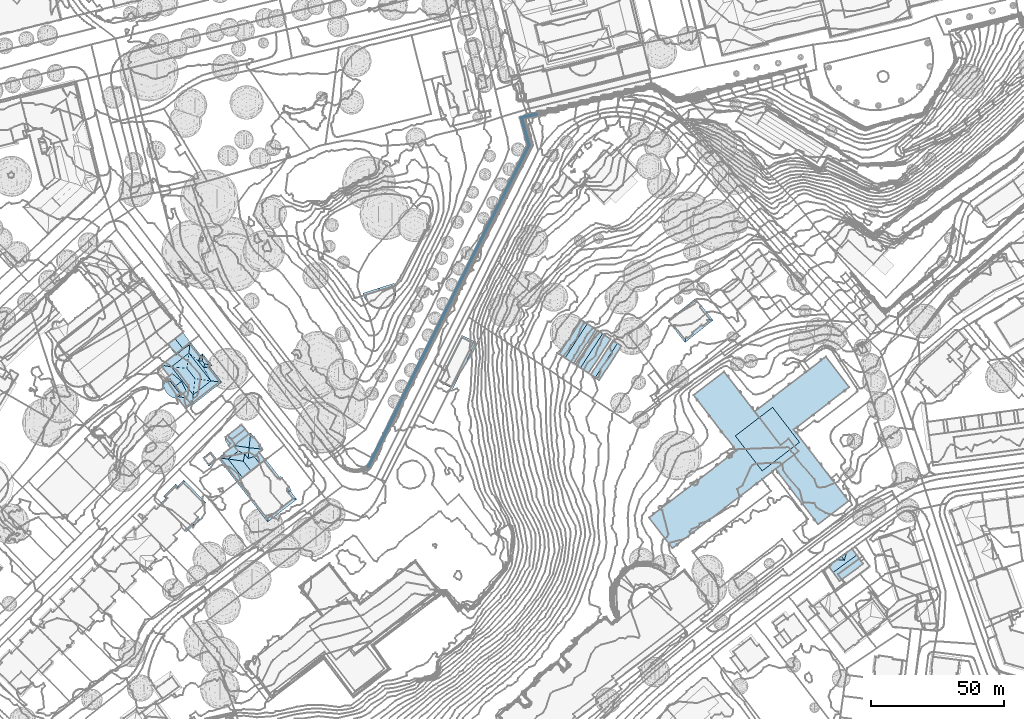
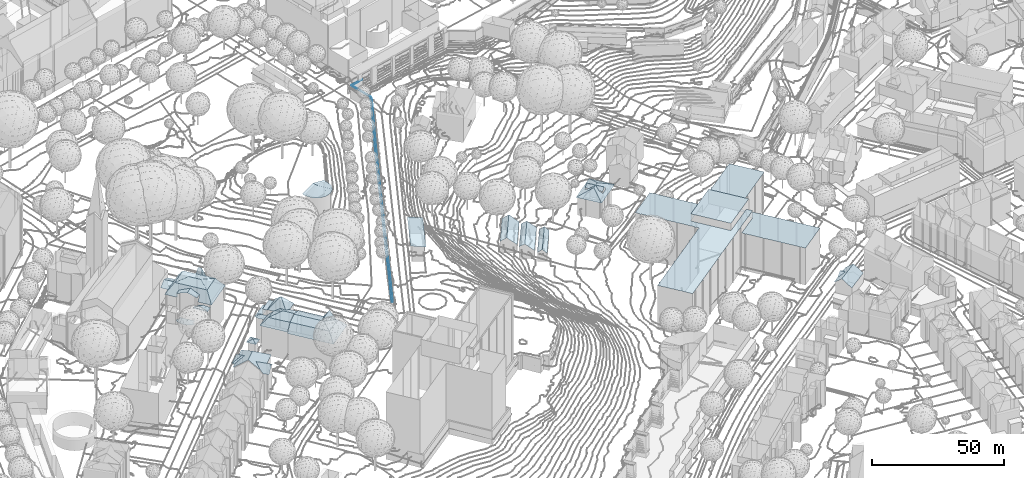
# Not in any storey, part 70 of 494: 21 roofs.
"""IFC2X3 model written with IfcOpenShell, lengths in metres."""

from ifc_helpers import new_model, si_unit, frame, origin_with_axes, place, context, subcontext, project, faceted_brep, element, save


model = new_model("IFC2X3")

# Units and contexts
model_context = context("Model", 3, precision=1e-05, world=origin_with_axes())
body_context = subcontext(model_context, "Body", "Model", "MODEL_VIEW")
ifc_project = project(units=[si_unit("AREAUNIT", "SQUARE_METRE"), si_unit("LENGTHUNIT", "METRE")], contexts=[model_context])

# Roofs
roof_1_placement = place(None, frame((211.8297320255, 101.9383160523, 526.7541), z_axis=(0.0, 0.0, 1.0), x_axis=(1.0, 0.0, 0.0)))
element("IfcRoof", 1, at=roof_1_placement, Name="Roof 61", ShapeType="NOTDEFINED", context=body_context, shape_type="Brep", body=[
    faceted_brep([(102.1030000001, 200.1112999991, 12.725), (98.7160000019, 210.6893999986, 12.908), (101.5769999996, 200.1640000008, 12.725), (99.1889999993, 194.3115000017, 12.725), (98.7479999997, 194.5351000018, 12.725), (86.574000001, 170.8154000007, 12.7249), (87.0150000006, 170.5927000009, 12.7249), (99.3280000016, 210.3222000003, 12.908), (104.8100000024, 211.5791000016, 12.908), (104.682, 212.057599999, 12.908), (69.7410000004, 135.8436999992, 12.3579), (79.3300000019, 155.1757000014, 12.45), (69.2980000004, 136.0634999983, 12.3579), (78.8869000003, 155.3955000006, 12.45), (59.6380000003, 116.7041000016, 12.2659), (60.0820000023, 116.4853000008, 12.2659), (50.5109999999, 96.9081999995, 11.991), (50.068, 97.128899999, 11.991), (41.626000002, 79.3007999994, 11.9909), (41.1750000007, 79.504900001, 11.9909)], [[[0, 1, 2]], [[3, 0, 4]], [[4, 0, 2]], [[4, 5, 6]], [[4, 6, 3]], [[1, 0, 7]], [[8, 9, 7]], [[1, 7, 9]], [[10, 11, 12]], [[12, 11, 13]], [[14, 15, 10]], [[14, 10, 12]], [[6, 5, 13]], [[13, 11, 6]], [[16, 17, 18]], [[19, 18, 17]], [[17, 16, 15]], [[15, 14, 17]]]),
])
roof_2_placement = place(None, frame((191.7677320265, 184.7195160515, 533.4186), z_axis=(0.0, 0.0, 1.0), x_axis=(1.0, 0.0, 0.0)))
element("IfcRoof", 2, at=roof_2_placement, Name="Roof 0", ShapeType="NOTDEFINED", context=body_context, shape_type="Brep", body=[
    faceted_brep([(4.9010000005, -0.5975999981, 6.3234), (2.3889999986, 1.7871000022, 6.5494), (2.1559999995, -0.2733999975, 7.1693), (2.4739999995, 2.5362000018, 6.3234), (1.8900000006, -2.2802000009, 6.5484), (1.7939999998, -3.0047999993, 6.3234), (0.0410000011, 0.0322999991, 6.5284), (-0.6339999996, 0.1289000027, 6.3234)], [[[0, 1, 2]], [[1, 0, 3]], [[4, 5, 0]], [[0, 2, 4]], [[1, 3, 6]], [[6, 2, 1]], [[7, 6, 3]], [[6, 7, 5]], [[6, 4, 2]], [[4, 6, 5]]]),
])
roof_3_placement = place(None, frame((204.5047320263, 176.2020160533, 532.0837), z_axis=(0.0, 0.0, 1.0), x_axis=(1.0, 0.0, 0.0)))
element("IfcRoof", 3, at=roof_3_placement, Name="Roof 0", ShapeType="NOTDEFINED", context=body_context, shape_type="Brep", body=[
    faceted_brep([(11.7740000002, -5.2979000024, 17.3633), (4.618999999, -2.6182000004, 16.2505), (6.443, -4.9726999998, 16.2564), (4.7919999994, 3.7127999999, 17.3634), (0.7840000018, -1.0030000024, 13.7007), (-0.563000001, -0.4365999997, 12.8058), (1.2659999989, -1.6202000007, 13.7067), (1.7730000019, -2.2696000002, 13.7137), (8.3430000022, -7.4229000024, 16.2654), (11.0329999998, -15.4013999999, 12.8058), (10.2710000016, -13.1425999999, 13.7857), (2.7219999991, -0.1680000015, 16.2415), (0.0, 0.0, 13.6807), (1.6440000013, 1.2733999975, 16.2365), (8.182, 6.3398000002, 16.3205), (14.6059999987, -1.9483000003, 16.3204), (11.7120000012, 4.9081999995, 13.9097), (10.387000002, 8.0487999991, 12.8058), (15.3680000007, 1.0243999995, 13.2647), (15.4829999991, 1.4715999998, 12.8058), (10.5859999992, 7.7918999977, 12.8058), (17.7809999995, -0.6436000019, 17.3633), (15.686999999, -3.3535999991, 16.3204), (19.0969999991, -2.3428000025, 14.7176), (18.7879999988, -3.5078999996, 13.8217), (20.0480000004, -3.5713, 12.8058), (11.1900000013, -14.0870000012, 13.9737), (21.9820000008, -6.9160999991, 12.8058), (11.5040000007, -11.4483000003, 16.3204), (20.6209999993, -6.7325000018, 14.0196), (18.0410000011, -6.3828999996, 16.3204), (19.637000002, -3.8887000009, 12.8058), (19.1220000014, -4.6933999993, 13.9397), (18.4979999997, -3.7344000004, 13.8187), (12.3020000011, -5.9785999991, 17.3633), (15.8940000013, 1.7899999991, 13.0208), (16.4570000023, 1.0634000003, 14.3166)], [[[0, 1, 2]], [[0, 3, 1]], [[4, 5, 6]], [[2, 1, 4]], [[2, 4, 6]], [[6, 5, 7]], [[8, 2, 6]], [[8, 6, 7]], [[7, 5, 9]], [[10, 8, 7]], [[9, 10, 7]], [[4, 1, 11]], [[4, 11, 5]], [[12, 5, 11]], [[11, 13, 12]], [[1, 3, 11]], [[3, 13, 11]], [[14, 3, 15]], [[0, 15, 3]], [[16, 17, 14]], [[15, 16, 14]], [[18, 19, 16]], [[15, 18, 16]], [[17, 16, 20]], [[20, 16, 19]], [[0, 21, 15]], [[21, 0, 22]], [[21, 22, 23]], [[23, 24, 25]], [[24, 23, 22]], [[26, 9, 27]], [[28, 26, 29]], [[29, 30, 28]], [[27, 29, 26]], [[29, 27, 31]], [[29, 32, 30]], [[32, 29, 31]], [[33, 22, 32]], [[32, 31, 33]], [[30, 32, 22]], [[31, 25, 33]], [[24, 22, 33]], [[24, 33, 25]], [[0, 34, 30]], [[30, 22, 0]], [[28, 30, 34]], [[0, 2, 8]], [[8, 34, 0]], [[28, 34, 8]], [[28, 8, 26]], [[10, 9, 26]], [[10, 26, 8]], [[18, 15, 35]], [[18, 35, 19]], [[15, 21, 36]], [[15, 36, 35]]]),
])
roof_4_placement = place(None, frame((197.8567320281, 184.744916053, 532.0838), z_axis=(0.0, 0.0, 1.0), x_axis=(1.0, 0.0, 0.0)))
element("IfcRoof", 4, at=roof_4_placement, Name="Roof 0", ShapeType="NOTDEFINED", context=body_context, shape_type="Brep", body=[
    faceted_brep([(6.7390000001, 2.6748000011, 15.8304), (8.5839999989, -1.1455000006, 17.6982), (9.1039999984, 1.5566999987, 16.9903), (10.3859999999, -0.1435000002, 16.8103), (5.1609999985, 4.7109999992, 15.8304), (5.1609999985, 4.7109999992, 13.4287), (3.9210000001, 3.7509999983, 13.4287), (6.6079999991, 2.8447999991, 15.6304), (2.8959999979, -0.3047000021, 16.1534), (0.0460000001, -0.0595000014, 14.1016), (1.3369999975, 1.7480999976, 13.4287), (-0.8900000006, 0.0214999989, 13.4287), (0.6609999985, -0.8506000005, 14.1086), (3.3319999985, -0.9384000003, 16.1154), (5.2709999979, -3.4404000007, 16.1304), (8.2919999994, -7.2695000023, 16.2364), (7.0219999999, -5.7001999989, 16.1434), (6.6479999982, -8.5428999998, 14.1446), (6.3269999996, -8.1308000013, 14.1306), (6.0849999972, -8.9794999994, 13.4286), (11.4399999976, -4.8300999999, 17.6982), (14.8299999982, -2.2030999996, 15.8304), (12.6519999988, 0.6064999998, 15.8304), (16.1559999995, 3.3222999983, 15.8304), (15.3669999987, 3.4081999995, 16.5093), (15.6419999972, 2.9239000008, 15.8304), (14.6119999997, 2.1259999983, 15.8304), (10.7410000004, 3.9091999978, 20.49), (11.3589999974, 9.5146999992, 15.8304), (11.2669999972, 8.6767999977, 16.5264), (12.7159999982, 7.7626999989, 15.8304), (14.8389999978, 5.0214999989, 15.8304), (5.6769999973, 5.1142999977, 15.8304), (12.7740000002, 0.7021999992, 15.6304), (16.7899999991, -0.6845000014, 12.6237), (14.6119999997, 2.1259999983, 12.6237)], [[[0, 1, 2]], [[2, 1, 3]], [[2, 4, 0]], [[5, 6, 7]], [[0, 7, 6]], [[6, 8, 0]], [[9, 8, 10]], [[10, 11, 9]], [[6, 10, 8]], [[11, 12, 9]], [[9, 12, 13]], [[13, 8, 9]], [[14, 13, 12]], [[15, 16, 17]], [[18, 19, 17]], [[18, 17, 16]], [[16, 1, 14]], [[13, 14, 1]], [[8, 1, 0]], [[1, 8, 13]], [[1, 16, 20]], [[20, 16, 15]], [[1, 20, 3]], [[3, 20, 21]], [[21, 22, 3]], [[23, 24, 25]], [[25, 24, 26]], [[26, 27, 22]], [[27, 26, 24]], [[3, 22, 27]], [[3, 27, 2]], [[4, 2, 27]], [[28, 29, 30]], [[30, 29, 27]], [[31, 27, 24]], [[27, 31, 30]], [[24, 23, 31]], [[12, 11, 19]], [[14, 12, 18]], [[18, 16, 14]], [[19, 18, 12]], [[32, 29, 28]], [[27, 32, 4]], [[29, 32, 27]], [[22, 21, 33]], [[33, 34, 35]], [[34, 33, 21]]]),
])
roof_5_placement = place(None, frame((197.8567320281, 184.744916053, 532.0838), z_axis=(0.0, 0.0, 1.0), x_axis=(1.0, 0.0, 0.0)))
element("IfcRoof", 5, at=roof_5_placement, Name="Roof 1", ShapeType="NOTDEFINED", context=body_context, shape_type="Brep", body=[
    faceted_brep([(9.5409999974, 10.9756000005, 15.1485), (4.2889999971, 6.9043000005, 15.1485), (5.6769999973, 5.1142999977, 15.1485), (10.9299999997, 9.183600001, 15.1485)], [[[0, 1, 2]], [[3, 0, 2]]]),
])
roof_6_placement = place(None, frame((197.8567320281, 184.744916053, 532.0838), z_axis=(0.0, 0.0, 1.0), x_axis=(1.0, 0.0, 0.0)))
element("IfcRoof", 6, at=roof_6_placement, Name="Roof 2", ShapeType="NOTDEFINED", context=body_context, shape_type="Brep", body=[
    faceted_brep([(2.7669999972, 6.75, 12.2948), (4.0439999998, 7.2216999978, 12.6367), (1.936999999, 7.816399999, 12.1418), (1.550999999, 7.9307000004, 12.0508), (1.856999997, 6.4140999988, 12.0508), (2.9629999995, 8.6162, 12.1738), (2.7649999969, 8.871100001, 12.0888), (3.9210000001, 3.7509999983, 12.0508), (5.6769999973, 5.1142999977, 12.6367), (3.1030000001, 4.8066999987, 12.0508), (4.0439999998, 7.2216999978, 12.1278), (9.5409999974, 10.9756000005, 12.1278), (8.0169999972, 12.9404999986, 12.1278), (4.2889999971, 6.9043000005, 12.1278), (3.2669999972, 8.2236999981, 12.1038)], [[[0, 1, 2]], [[0, 3, 4]], [[3, 0, 2]], [[3, 2, 5]], [[3, 5, 6]], [[5, 2, 1]], [[7, 8, 9]], [[9, 8, 1]], [[4, 9, 0]], [[0, 9, 1]], [[10, 11, 12]], [[11, 10, 13]], [[10, 12, 14]], [[6, 14, 12]]]),
])
roof_7_placement = place(None, frame((424.3367320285, 142.6277160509, 499.4686), z_axis=(0.0, 0.0, 1.0), x_axis=(1.0, 0.0, 0.0)))
element("IfcRoof", 7, at=roof_7_placement, Name="Roof 2", ShapeType="NOTDEFINED", context=body_context, shape_type="Brep", body=[
    faceted_brep([(6.5159999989, 5.1739000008, 11.9688), (6.2359999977, 5.5557000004, 11.9688), (4.9789999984, 4.0420000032, 10.672), (7.5119999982, 3.8115999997, 11.9688), (4.2569999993, 4.1075000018, 10.302), (8.3029999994, 6.4912, 10.662), (8.5209999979, 7.2276000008, 10.302), (12.2349999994, 5.7920000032, 12.8867), (3.3819999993, -0.682599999, 12.8867), (14.675999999, 2.452200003, 9.824), (5.8249999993, -4.0233999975, 9.824), (10.5249999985, 8.1280000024, 10.632), (10.3319999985, 8.3916000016, 10.377), (1.8729999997, 1.379900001, 10.9149), (1.4039999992, 2.0205000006, 10.302)], [[[0, 1, 2]], [[2, 3, 0]], [[4, 2, 1]], [[5, 6, 1]], [[1, 0, 5]], [[0, 3, 5]], [[3, 7, 5]], [[8, 7, 3]], [[9, 7, 8]], [[8, 10, 9]], [[5, 7, 6]], [[11, 12, 6]], [[7, 11, 6]], [[13, 4, 14]], [[13, 2, 4]], [[8, 2, 13]], [[8, 3, 2]]]),
])
roof_8_placement = place(None, frame((176.0177320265, 167.5691160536, 531.6498), z_axis=(0.0, 0.0, 1.0), x_axis=(1.0, 0.0, 0.0)))
element("IfcRoof", 8, at=roof_8_placement, Name="Roof 0", ShapeType="NOTDEFINED", context=body_context, shape_type="Brep", body=[
    faceted_brep([(8.129999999, 0.4511999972, 16.7394), (5.6339999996, 2.182699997, 14.4406), (3.7859999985, -3.8349000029, 16.7394), (8.1020000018, 7.7969000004, 12.7008), (2.0469999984, 2.1845999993, 12.5008), (0.0, 0.0, 12.5908), (1.2679999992, 2.1845999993, 12.0798), (-0.4659999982, 0.4716999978, 12.0798), (5.8429999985, 6.7001999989, 12.0798), (8.0980000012, 8.9267999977, 12.0798), (5.7989999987, 5.7597999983, 12.5718), (15.3599999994, 0.4960999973, 12.6737), (16.4149999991, 0.5029999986, 12.0798), (0.5190000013, 2.941399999, 12.0798), (1.4890000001, 2.9219000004, 12.5938), (4.9759999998, 2.8497000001, 14.4406), (12.194000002, -3.6640000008, 12.0798), (5.0639999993, 6.2696000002, 12.6898), (5.0940000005, 7.4599999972, 12.0798), (7.0960000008, -7.1894000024, 12.9447), (7.2509999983, -3.8769000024, 14.7546), (11.3790000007, -3.754800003, 12.5218), (10.9990000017, -7.8192999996, 14.6726), (9.1000000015, -10.5205000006, 12.0798), (11.1099999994, -8.5371000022, 14.2356), (11.0590000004, -7.7343000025, 14.7545), (11.944000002, -7.7148000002, 14.2356), (7.4030000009, -8.8007000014, 12.0798), (8.5870000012, -10.0, 12.0798), (11.4840000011, -7.3388000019, 14.2866), (11.8399999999, -6.9843000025, 13.9196), (13.568, -5.0566000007, 12.0798), (13.4609999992, -5.1621000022, 12.1828), (14.0949999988, -5.5908000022, 12.0798)], [[[0, 1, 2]], [[1, 0, 3]], [[4, 5, 2]], [[6, 7, 5]], [[4, 2, 1]], [[8, 3, 9]], [[3, 8, 10]], [[4, 6, 5]], [[10, 1, 3]], [[11, 12, 9]], [[11, 3, 0]], [[3, 11, 9]], [[13, 6, 14]], [[14, 6, 4]], [[4, 1, 15]], [[4, 15, 14]], [[11, 0, 16]], [[1, 10, 15]], [[15, 10, 17]], [[17, 8, 18]], [[8, 17, 10]], [[17, 18, 14]], [[17, 14, 15]], [[14, 18, 13]], [[11, 16, 12]], [[2, 19, 20]], [[0, 2, 20]], [[16, 0, 20]], [[16, 20, 21]], [[22, 23, 24]], [[22, 24, 25]], [[25, 24, 26]], [[22, 25, 27]], [[28, 23, 22]], [[27, 28, 22]], [[25, 20, 19]], [[27, 25, 19]], [[26, 29, 25]], [[20, 25, 29]], [[21, 20, 29]], [[29, 26, 30]], [[29, 30, 21]], [[16, 21, 31]], [[32, 33, 31]], [[32, 31, 21]], [[30, 26, 33]], [[32, 21, 30]], [[33, 32, 30]]]),
])
roof_9_placement = place(None, frame((358.6987320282, 162.4100160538, 500.5526), z_axis=(0.0, 0.0, 1.0), x_axis=(1.0, 0.0, 0.0)))
element("IfcRoof", 9, at=roof_9_placement, Name="Roof 0", ShapeType="NOTDEFINED", context=body_context, shape_type="Brep", body=[
    faceted_brep([(46.5789999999, 17.2010999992, 20.544), (46.3899999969, 17.4463, 20.544), (46.2299999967, 16.932599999, 20.544), (42.3459999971, 17.5449000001, 20.544), (46.0409999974, 17.1787, 20.544), (40.4329999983, 12.875, 20.544), (56.0319999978, 24.8475999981, 20.544), (40.6219999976, 12.628899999, 20.544), (40.3519999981, 12.4217999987, 20.544), (34.3389999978, 7.806599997, 20.544), (34.6879999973, 8.0751999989, 20.544), (34.498999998, 8.3202999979, 20.544), (40.1629999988, 12.6678999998, 20.544), (54.4849999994, 26.8622999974, 20.544), (31.6719999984, 24.3104999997, 20.544), (31.3310000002, 24.0487999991, 20.544), (32.737999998, 25.1278999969, 20.544), (25.7309999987, 19.75, 20.544), (34.1499999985, 8.052699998, 20.544), (19.7899999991, 15.1903999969, 20.544), (28.549999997, 3.753899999, 20.544), (25.3899999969, 19.4881999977, 20.544), (25.5419999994, 19.9969999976, 20.544), (19.4489999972, 14.9287, 20.544), (31.1419999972, 24.2949000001, 20.544), (28.3979999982, 3.2460999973, 20.544), (28.7390000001, 3.5077999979, 20.544), (28.2089999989, 3.4921999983, 20.544), (22.6009999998, -0.8125, 20.544), (22.7899999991, -1.058600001, 20.544), (22.2599999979, -1.0743000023, 20.544), (16.310999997, -5.6407000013, 20.544), (16.5, -5.8868000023, 20.544), (16.8409999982, -5.6240999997, 20.544), (10.550999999, -10.452200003, 20.544), (10.8919999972, -10.1905000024, 20.544), (10.3619999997, -10.2061000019, 20.544), (22.4489999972, -1.3203000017, 20.544), (13.8259999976, 10.6112999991, 20.544), (13.4839999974, 10.3495999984, 20.544), (13.6369999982, 10.8574000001, 20.544), (16.6519999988, -5.3780000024, 20.544), (7.8769999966, 6.0458999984, 20.544), (7.5359999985, 5.7840999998, 20.544), (10.7029999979, -9.9444000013, 20.544), (1.9269999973, 1.4784999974, 20.544), (1.5869999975, 1.2176999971, 20.544), (8.7929999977, -11.4101999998, 20.544), (1.737999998, 1.7245999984, 20.544), (0.0, 0.0, 20.544), (7.3469999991, 6.0292999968, 20.544), (19.2599999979, 15.1747999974, 20.544), (38.7639999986, 40.8993999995, 20.544), (39.0099999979, 41.0887999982, 20.544), (38.7479999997, 41.4296999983, 20.544), (22.7960000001, 38.0819999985, 20.544), (38.5019999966, 41.2412, 20.544), (34.1879999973, 46.8544999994, 20.544), (27.0999999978, 32.4736000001, 20.544), (41.3039999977, 37.5936999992, 20.544), (32.2749999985, 30.6639999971, 20.544), (31.9219999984, 26.1903999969, 20.544), (27.3619999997, 32.1327999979, 20.544), (27.1159999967, 31.9432999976, 20.544), (34.1719999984, 47.3847000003, 20.544), (33.925999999, 47.1952999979, 20.544), (34.4339999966, 47.0438999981, 20.544), (22.5350000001, 38.422799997, 20.544), (29.623999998, 52.7938999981, 20.544), (29.8699999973, 52.9824000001, 20.544), (29.6079999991, 53.3241999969, 20.544), (18.2299999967, 44.0321999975, 20.544), (17.9679999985, 44.3729999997, 20.544), (29.3619999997, 53.1347000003, 20.544), (16.754999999, 45.9540999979, 20.544), (28.1559999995, 54.7049999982, 20.544), (22.2889999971, 38.2333999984, 20.544), (17.9839999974, 43.8426999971, 20.544), (19.6009999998, 15.436499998, 20.544), (25.2009999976, 19.7342999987, 20.544), (13.2949999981, 10.5956999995, 20.544), (7.6879999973, 6.2919999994, 20.544), (1.3979999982, 1.4637999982, 20.544), (31.4829999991, 24.556599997, 20.544), (31.675999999, 26.0018999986, 20.544), (31.6600000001, 26.5321999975, 20.544), (26.8539999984, 32.2850999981, 20.544), (22.549999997, 37.8924999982, 20.544), (17.7219999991, 44.1835999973, 20.544), (31.4139999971, 26.3426999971, 20.544)], [[[0, 1, 2]], [[3, 4, 1]], [[5, 4, 3]], [[1, 6, 3]], [[2, 1, 4]], [[7, 5, 8]], [[9, 10, 11]], [[5, 12, 8]], [[5, 3, 12]], [[3, 6, 13]], [[11, 12, 3]], [[14, 15, 3]], [[14, 3, 16]], [[17, 3, 15]], [[18, 19, 20]], [[17, 18, 11]], [[18, 9, 11]], [[21, 19, 18]], [[22, 21, 17]], [[21, 18, 17]], [[11, 3, 17]], [[20, 19, 23]], [[24, 15, 14]], [[25, 26, 27]], [[28, 27, 23]], [[29, 28, 30]], [[20, 27, 26]], [[31, 32, 33]], [[34, 35, 36]], [[37, 29, 30]], [[28, 38, 30]], [[38, 39, 30]], [[38, 28, 23]], [[39, 38, 40]], [[30, 39, 41]], [[42, 43, 41]], [[42, 41, 39]], [[41, 43, 31]], [[44, 36, 35]], [[31, 43, 44]], [[36, 44, 45]], [[36, 46, 47]], [[46, 36, 45]], [[46, 45, 48]], [[47, 46, 49]], [[43, 45, 44]], [[42, 50, 43]], [[41, 31, 33]], [[20, 23, 27]], [[19, 51, 23]], [[52, 53, 54]], [[55, 56, 57]], [[54, 56, 52]], [[52, 56, 58]], [[59, 52, 60]], [[60, 61, 16]], [[62, 60, 52]], [[52, 58, 62]], [[62, 58, 63]], [[56, 55, 58]], [[57, 64, 65]], [[64, 57, 66]], [[67, 57, 65]], [[68, 69, 70]], [[65, 71, 67]], [[71, 65, 68]], [[71, 68, 72]], [[72, 73, 74]], [[73, 72, 68]], [[74, 73, 75]], [[68, 70, 73]], [[67, 76, 55]], [[57, 67, 55]], [[77, 71, 72]], [[51, 19, 78]], [[79, 21, 22]], [[40, 80, 39]], [[42, 81, 50]], [[48, 82, 46]], [[24, 14, 83]], [[84, 61, 85]], [[85, 61, 60]], [[58, 86, 63]], [[87, 55, 76]], [[72, 88, 77]], [[89, 84, 85]], [[62, 85, 60]], [[3, 60, 16]]]),
])
roof_10_placement = place(None, frame((358.6987320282, 162.4100160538, 500.5526), z_axis=(0.0, 0.0, 1.0), x_axis=(1.0, 0.0, 0.0)))
element("IfcRoof", 10, at=roof_10_placement, Name="Roof 1", ShapeType="NOTDEFINED", context=body_context, shape_type="Brep", body=[
    faceted_brep([(40.7960000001, 41.1590999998, 17.1843), (40.4549999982, 40.8963999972, 17.1843), (40.6439999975, 40.6503999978, 17.1843), (40.9849999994, 40.9129999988, 17.1843), (41.3039999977, 37.5936999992, 17.1843), (46.5899999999, 45.2215999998, 17.1843), (46.2509999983, 41.3915999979, 17.1843), (46.9299999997, 45.4833999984, 17.1843), (46.4009999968, 45.4676999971, 17.1843), (52.5429999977, 49.7997999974, 17.1843), (46.7409999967, 45.7294999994, 17.1843), (52.8829999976, 50.061499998, 17.1843), (52.3539999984, 50.0458999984, 17.1843), (55.3229999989, 33.8125, 17.1843), (54.2729999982, 33.0047999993, 17.1843), (39.5829999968, 39.8338999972, 17.1843), (55.6719999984, 34.0810000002, 17.1843), (61.2839999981, 38.3954999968, 17.1843), (55.5119999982, 33.566399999, 17.1843), (61.4729999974, 38.1493999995, 17.1843), (61.6329999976, 38.6639999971, 17.1843), (55.8609999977, 33.8348999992, 17.1843), (61.8219999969, 38.4178999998, 17.1843), (58.6389999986, 54.8797999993, 17.1843), (58.2979999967, 54.6180999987, 17.1843), (58.4869999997, 54.3719999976, 17.1843), (58.8279999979, 54.6338, 17.1843), (67.561999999, 43.2236000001, 17.1843), (64.5759999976, 59.4442999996, 17.1843), (64.2349999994, 59.182599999, 17.1843), (64.4239999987, 58.936499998, 17.1843), (64.7649999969, 59.1991999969, 17.1843), (73.5059999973, 47.7949000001, 17.1843), (66.3319999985, 60.4032999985, 17.1843), (75.0839999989, 49.0077999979, 17.1843), (73.1659999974, 47.5331999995, 17.1843), (67.2209999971, 42.9618999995, 17.1843), (67.4100000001, 42.7157999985, 17.1843), (52.6939999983, 50.307599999, 17.1843), (67.7509999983, 42.9774999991, 17.1843), (73.6949999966, 47.5487999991, 17.1843), (73.3549999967, 47.2870999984, 17.1843), (48.2829999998, 16.6747999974, 17.1843), (48.5279999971, 16.8631999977, 17.1843), (48.0209999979, 17.0155999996, 17.1843), (48.2659999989, 17.2049999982, 17.1843), (55.3579999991, 31.5936999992, 17.1843), (55.0899999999, 31.9422999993, 17.1843), (56.3209999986, 28.2723999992, 17.1843), (54.4849999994, 26.8622999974, 17.1843), (56.0319999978, 24.8475999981, 17.1843), (59.9229999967, 25.6551999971, 17.1843), (52.8369999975, 11.2586999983, 17.1843), (64.2329999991, 20.0497999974, 17.1843), (47.4529999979, 18.2626999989, 17.1843), (59.6549999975, 26.0047999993, 17.1843), (52.5920000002, 11.0692999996, 17.1843), (53.0989999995, 10.9188999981, 17.1843), (61.7409999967, -0.8282000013, 17.1843), (62.0029999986, -1.1689999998, 17.1843), (61.9869999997, -0.639700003, 17.1843), (57.1629999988, 5.125, 17.1843), (57.4189999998, 4.7919999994, 17.1843), (57.4089999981, 5.3134000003, 17.1843), (57.6649999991, 4.9803999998, 17.1843), (69.0589999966, 13.7714999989, 17.1843), (68.8029999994, 14.1044999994, 17.1843), (73.6429999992, 7.8094999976, 17.1843), (62.248999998, -0.9805000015, 17.1843), (73.368999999, 8.1669999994, 17.1843), (64.4949999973, 19.7088999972, 17.1843), (52.8539999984, 10.7294999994, 17.1843), (63.4439999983, -2.5342000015, 17.1843), (74.8519999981, 6.2372999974, 17.1843), (55.6039999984, 31.7831999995, 17.1843), (60.1689999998, 25.8446999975, 17.1843), (55.3359999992, 32.1317999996, 17.1843), (59.9009999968, 26.1932999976, 17.1843), (64.7399999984, 19.8973999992, 17.1843), (64.4780000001, 20.2381999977, 17.1843), (73.8889999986, 7.998999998, 17.1843), (69.0489999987, 14.2938999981, 17.1843), (69.3049999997, 13.9608999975, 17.1843), (73.6149999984, 8.3553999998, 17.1843)], [[[0, 1, 2]], [[3, 0, 2]], [[3, 2, 4]], [[5, 3, 6]], [[7, 8, 5]], [[6, 9, 7]], [[7, 10, 8]], [[11, 12, 9]], [[7, 5, 6]], [[4, 6, 3]], [[13, 6, 14]], [[4, 2, 15]], [[6, 16, 17]], [[16, 6, 13]], [[13, 18, 16]], [[17, 19, 20]], [[18, 21, 16]], [[17, 20, 9]], [[17, 9, 6]], [[19, 22, 20]], [[23, 24, 25]], [[25, 26, 23]], [[26, 25, 27]], [[28, 29, 30]], [[31, 28, 30]], [[32, 31, 30]], [[33, 31, 34]], [[30, 26, 35]], [[25, 36, 27]], [[36, 11, 20]], [[36, 37, 27]], [[38, 12, 11]], [[39, 27, 37]], [[34, 31, 32]], [[30, 35, 32]], [[40, 32, 35]], [[41, 40, 35]], [[27, 35, 26]], [[36, 25, 11]], [[9, 20, 11]], [[42, 43, 44]], [[45, 44, 43]], [[46, 47, 48]], [[48, 49, 50]], [[45, 43, 50]], [[51, 50, 43]], [[52, 53, 43]], [[54, 45, 50]], [[55, 48, 50]], [[56, 57, 52]], [[14, 6, 48]], [[58, 59, 60]], [[61, 62, 63]], [[63, 62, 64]], [[65, 63, 64]], [[57, 63, 66]], [[67, 60, 68]], [[60, 59, 68]], [[64, 60, 69]], [[52, 57, 70]], [[71, 57, 56]], [[72, 73, 68]], [[74, 47, 46]], [[48, 47, 14]], [[75, 55, 51]], [[51, 43, 53]], [[51, 55, 50]], [[48, 55, 46]], [[74, 76, 47]], [[77, 55, 75]], [[53, 78, 79]], [[53, 52, 70]], [[64, 69, 65]], [[69, 60, 67]], [[69, 67, 80]], [[66, 65, 81]], [[66, 70, 57]], [[65, 82, 81]], [[69, 80, 83]], [[67, 68, 73]], [[70, 78, 53]], [[63, 65, 66]]]),
])
roof_11_placement = place(None, frame((358.6987320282, 162.4100160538, 500.5526), z_axis=(0.0, 0.0, 1.0), x_axis=(1.0, 0.0, 0.0)))
element("IfcRoof", 11, at=roof_11_placement, Name="Roof 2", ShapeType="NOTDEFINED", context=body_context, shape_type="Brep", body=[
    faceted_brep([(56.3209999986, 28.2723999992, 23.8497), (46.2509999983, 41.3915999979, 23.8497), (32.2749999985, 30.6639999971, 23.8497), (42.3459999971, 17.5449000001, 23.8497)], [[[0, 1, 2]], [[2, 3, 0]]]),
])
roof_12_placement = place(None, frame((331.0367320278, 219.7098160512, 508.5819), z_axis=(0.0, 0.0, 1.0), x_axis=(1.0, 0.0, 0.0)))
element("IfcRoof", 12, at=roof_12_placement, Name="Roof 0", ShapeType="NOTDEFINED", context=body_context, shape_type="Brep", body=[
    faceted_brep([(10.1079999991, 11.6181000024, 6.7144), (8.3099999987, 12.7871000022, 5.4855), (0.0, 0.0, 5.4855), (1.7980000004, -1.1689999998, 6.7144), (13.1989999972, 9.6084000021, 3.8936), (4.8889999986, -3.1777999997, 3.8936)], [[[0, 1, 2]], [[2, 3, 0]], [[4, 0, 5]], [[3, 5, 0]]]),
])
roof_13_placement = place(None, frame((336.8067320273, 215.9607160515, 507.462), z_axis=(0.0, 0.0, 1.0), x_axis=(1.0, 0.0, 0.0)))
element("IfcRoof", 13, at=roof_13_placement, Name="Roof 0", ShapeType="NOTDEFINED", context=body_context, shape_type="Brep", body=[
    faceted_brep([(9.8939999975, 11.754900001, 5.5585), (8.3090000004, 12.7862000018, 4.0656), (0.0, 0.0, 4.0656), (1.5850000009, -1.0311999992, 5.5585), (3.1429999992, -2.0438999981, 3.7816), (11.4519999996, 10.7422000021, 3.7816)], [[[0, 1, 2]], [[2, 3, 0]], [[3, 4, 5]], [[5, 0, 3]]]),
])
roof_14_placement = place(None, frame((324.9327320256, 223.6766160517, 510.9427), z_axis=(0.0, 0.0, 1.0), x_axis=(1.0, 0.0, 0.0)))
element("IfcRoof", 14, at=roof_14_placement, Name="Roof 0", ShapeType="NOTDEFINED", context=body_context, shape_type="Brep", body=[
    faceted_brep([(10.4539999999, 11.3935000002, 7.0203), (8.3100000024, 12.7871000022, 5.2575), (2.1440000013, -1.3925999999, 7.0203), (0.0, 0.0, 5.2575), (5.4330000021, -3.5313000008, 3.9306), (13.7430000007, 9.2558000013, 3.9306)], [[[0, 1, 2]], [[3, 2, 1]], [[2, 4, 0]], [[5, 0, 4]]]),
])
roof_15_placement = place(None, frame((280.3717320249, 213.5818160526, 528.5311), z_axis=(0.0, 0.0, 1.0), x_axis=(1.0, 0.0, 0.0)))
element("IfcRoof", 15, at=roof_15_placement, Name="Roof 0", ShapeType="NOTDEFINED", context=body_context, shape_type="Brep", body=[
    faceted_brep([(-0.5999999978, -0.1416000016, 7.5122), (4.6950000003, -2.7617000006, 6.7823), (8.0320000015, 17.3018000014, 7.5122), (13.3270000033, 14.6816999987, 6.7823)], [[[0, 1, 2]], [[3, 2, 1]]]),
])
roof_16_placement = place(None, frame((366.0957320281, 236.0047160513, 506.5151), z_axis=(0.0, 0.0, 1.0), x_axis=(1.0, 0.0, 0.0)))
element("IfcRoof", 16, at=roof_16_placement, Name="Roof 0", ShapeType="NOTDEFINED", context=body_context, shape_type="Brep", body=[
    faceted_brep([(8.0819999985, 0.3652000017, 10.8689), (8.0749999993, -2.2470999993, 9.803), (10.305999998, -2.427699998, 10.8689), (9.0289999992, -3.4452999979, 9.803), (10.5029999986, -0.3145000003, 9.803), (11.4569999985, -1.5126999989, 9.803), (14.7960000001, 0.6963, 8.8191), (16.5119999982, 0.4678000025, 8.1672), (9.9329999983, 7.9433999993, 8.4342), (9.3979999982, 1.4131000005, 10.8689), (9.9919999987, 8.6581999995, 8.1672), (0.2569999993, 0.2050999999, 8.4482), (-0.4900000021, 0.3144000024, 8.1672), (6.0289999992, -7.8759999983, 8.1672), (6.1889999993, -6.1855999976, 8.8061), (6.7039999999, -0.7324000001, 10.8689), (5.8299999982, 3.1953000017, 10.8689), (4.5529999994, 2.1777000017, 9.803), (5.5029999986, 0.9844000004, 9.803), (6.9809999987, 4.1103000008, 9.803), (7.930999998, 2.9169999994, 9.803), (6.9809999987, 4.1103000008, 9.0251), (7.686999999, 3.2236000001, 9.6031), (4.5529999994, 2.1777000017, 9.0251), (5.2589999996, 1.2910000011, 9.6031), (9.0289999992, -3.4452999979, 9.0031), (11.4569999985, -1.5126999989, 9.0021), (8.3129999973, -2.5458999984, 9.6031), (10.7410000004, -0.6142999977, 9.6031)], [[[0, 1, 2]], [[3, 2, 1]], [[4, 0, 2]], [[2, 5, 4]], [[6, 7, 8]], [[6, 8, 9]], [[8, 7, 10]], [[11, 12, 13]], [[11, 14, 15]], [[14, 11, 13]], [[16, 17, 18]], [[18, 0, 16]], [[19, 16, 20]], [[0, 20, 16]], [[10, 21, 8]], [[21, 10, 12]], [[8, 21, 22]], [[8, 20, 9]], [[20, 8, 22]], [[9, 20, 0]], [[23, 12, 11]], [[12, 23, 21]], [[23, 11, 24]], [[18, 15, 0]], [[18, 24, 11]], [[11, 15, 18]], [[13, 25, 14]], [[25, 13, 26]], [[14, 25, 27]], [[14, 1, 15]], [[1, 14, 27]], [[15, 1, 0]], [[26, 7, 6]], [[7, 26, 13]], [[26, 6, 28]], [[0, 4, 9]], [[6, 4, 28]], [[4, 6, 9]]]),
])
roof_17_placement = place(None, frame((252.4497320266, 245.9139160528, 540.482), z_axis=(0.0, 0.0, 1.0), x_axis=(1.0, 0.0, 0.0)))
element("IfcRoof", 17, at=roof_17_placement, Name="Roof 0", ShapeType="NOTDEFINED", context=body_context, shape_type="Brep", body=[
    faceted_brep([(5.0029999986, 1.620099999, 11.3829), (4.7250000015, 2.5810000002, 11.3829), (-1.1079999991, 0.7186999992, 9.605), (5.2289999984, 0.8387999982, 11.3829), (-0.5689999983, -1.1484999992, 9.605), (0.8669999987, -3.4668000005, 9.605), (1.2250000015, -3.1132999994, 9.751), (11.0269999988, 2.8251999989, 9.605), (10.5590000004, 4.442400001, 9.605), (10.7740000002, 0.1766999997, 9.763), (10.1140000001, -2.2763999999, 9.702), (10.3969999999, -2.4561000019, 9.605), (11.3150000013, 0.1123000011, 9.605), (8.4560000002, -4.3720999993, 9.605), (5.875, -5.2558999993, 9.605), (3.1669999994, -4.933600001, 9.605), (3.2690000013, -4.6464999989, 9.693)], [[[0, 1, 2]], [[3, 0, 4]], [[2, 4, 0]], [[5, 6, 4]], [[3, 4, 6]], [[7, 8, 1]], [[0, 3, 7]], [[0, 7, 1]], [[9, 3, 10]], [[9, 11, 12]], [[11, 9, 10]], [[7, 3, 9]], [[12, 7, 9]], [[13, 3, 14]], [[10, 3, 13]], [[10, 13, 11]], [[15, 16, 6]], [[15, 6, 5]], [[6, 16, 3]], [[14, 16, 15]], [[16, 14, 3]]]),
])
roof_18_placement = place(None, frame((140.4987320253, 222.5740160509, 530.262), z_axis=(0.0, 0.0, 1.0), x_axis=(1.0, 0.0, 0.0)))
element("IfcRoof", 18, at=roof_18_placement, Name="Roof 5", ShapeType="NOTDEFINED", context=body_context, shape_type="Brep", body=[
    faceted_brep([(43.3969999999, 3.1026000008, 15.1395), (46.393000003, 5.1338, 13.6237), (43.3450000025, 9.2910000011, 13.5517), (40.3640000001, 6.9619000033, 15.1395), (37.6070000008, 4.808600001, 13.5837), (40.6130000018, 0.7627000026, 13.5227)], [[[0, 1, 2]], [[2, 3, 0]], [[3, 4, 0]], [[5, 0, 4]]]),
])
roof_19_placement = place(None, frame((174.360732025, 216.5486160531, 540.845), z_axis=(0.0, 0.0, 1.0), x_axis=(1.0, 0.0, 0.0)))
element("IfcRoof", 19, at=roof_19_placement, Name="Roof 0", ShapeType="NOTDEFINED", context=body_context, shape_type="Brep", body=[
    faceted_brep([(3.3780000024, -7.3203000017, -2.7948), (6.6800000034, -8.5625, -2.7948), (2.245000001, -4.0615000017, -2.7948), (7.3160000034, -9.3729999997, -2.7948), (6.3670000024, -9.3339000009, -2.7948), (5.375, -9.0625, -2.7948), (4.0850000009, -8.1435000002, -2.7948), (8.1300000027, -7.4237999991, -2.7948), (3.9020000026, -3.2871000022, -2.7948), (3.1480000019, -3.3515000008, -2.7948), (2.0470000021, -4.7441000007, -2.7948), (2.693, -6.3144000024, -2.7948), (2.5250000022, -3.2754000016, -2.7948), (4.5050000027, -2.8125, -2.7948)], [[[0, 1, 2]], [[3, 1, 4]], [[4, 1, 5]], [[6, 5, 1]], [[0, 6, 1]], [[1, 7, 8]], [[2, 1, 9]], [[9, 1, 8]], [[10, 11, 2]], [[11, 0, 2]], [[9, 12, 2]], [[8, 7, 13]]]),
])
roof_20_placement = place(None, frame((174.360732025, 216.5486160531, 540.845), z_axis=(0.0, 0.0, 1.0), x_axis=(1.0, 0.0, 0.0)))
element("IfcRoof", 20, at=roof_20_placement, Name="Roof 1", ShapeType="NOTDEFINED", context=body_context, shape_type="Brep", body=[
    faceted_brep([(8.2700000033, -7.6024999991, 8.2642), (8.7660000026, -8.2343000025, 7.9792), (9.5260000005, -7.6367000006, 7.9792), (8.8660000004, -3.0088, 9.415), (10.6860000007, -6.7246000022, 7.9792), (6.2660000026, -5.0527000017, 9.415), (4.3570000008, -1.058600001, 7.9792), (4.2750000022, -2.5205000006, 8.3442), (3.5970000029, -1.6581999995, 7.9792), (5.5170000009, -0.1493999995, 7.9792), (13.2910000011, -8.0078000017, 10.064), (19.876000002, -2.8339000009, 10.064), (13.9360000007, -1.9629000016, 11.0839), (19.518000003, 2.4228999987, 5.5344), (18.9020000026, 2.3506000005, 6.1804), (19.5820000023, 1.4882999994, 6.3393), (17.1860000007, 2.1513999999, 7.9792), (10.9170000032, 1.8779999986, 11.0839), (5.0960000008, 2.4219000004, 10.064), (11.6780000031, 7.5956999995, 10.064), (10.5910000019, -6.7998000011, 7.7792), (9.5260000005, -7.6367000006, 5.5344), (2.2170000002, 1.6660000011, 5.5344), (5.4220000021, -0.2226000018, 7.7792), (4.3570000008, -1.058600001, 5.5344), (10.7820000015, -9.2343000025, 5.5344), (13.006000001, -11.2382000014, 6.3803), (12.9410000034, -11.9794999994, 5.5344), (19.2280000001, 2.7256000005, 6.3643), (20.2780000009, 3.0214999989, 5.5344), (19.4770000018, 3.1708999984, 7.3592), (17.5580000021, 3.5302999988, 11.7358), (15.2480000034, 4.6162, 7.9792), (16.6670000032, 4.6651000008, 11.7358), (16.8350000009, 7.4034000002, 5.5344), (16.7370000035, 5.8017999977, 9.1601), (23.2100000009, -3.1982000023, 6.4063), (24.0050000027, -3.2851000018, 5.5344), (15.8510000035, 6.2138999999, 6.1964), (16.075000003, 6.8066999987, 5.5344), (15.2719999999, 6.9512000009, 6.3623), (12.1080000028, 11.8535999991, 5.5344), (12.0300000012, 11.0781999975, 6.3594), (16.0290000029, 5.9873000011, 6.7763), (1.6790000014, 3.0419999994, 6.2454), (1.0430000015, 3.1572999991, 5.5344)], [[[0, 1, 2]], [[3, 2, 4]], [[2, 5, 0]], [[5, 2, 3]], [[5, 3, 6]], [[6, 7, 5]], [[8, 7, 6]], [[6, 3, 9]], [[10, 11, 12]], [[13, 14, 15]], [[16, 11, 15]], [[16, 15, 14]], [[17, 18, 12]], [[10, 12, 18]], [[12, 11, 19]], [[19, 17, 12]], [[19, 18, 17]], [[3, 18, 9]], [[20, 21, 10]], [[10, 4, 20]], [[10, 3, 4]], [[18, 22, 9]], [[23, 9, 22]], [[22, 24, 23]], [[10, 21, 25]], [[10, 25, 26]], [[27, 26, 25]], [[28, 29, 30]], [[31, 16, 28]], [[31, 28, 30]], [[13, 29, 14]], [[28, 16, 14]], [[28, 14, 29]], [[31, 32, 16]], [[32, 31, 33]], [[30, 29, 34]], [[31, 30, 35]], [[35, 33, 31]], [[34, 35, 30]], [[26, 11, 10]], [[36, 26, 27]], [[26, 36, 11]], [[36, 27, 37]], [[36, 37, 15]], [[15, 11, 36]], [[13, 15, 37]], [[10, 18, 3]], [[32, 19, 16]], [[11, 16, 19]], [[38, 39, 40]], [[19, 32, 38]], [[19, 38, 40]], [[40, 39, 41]], [[42, 19, 40]], [[41, 42, 40]], [[34, 43, 35]], [[32, 33, 35]], [[32, 35, 43]], [[34, 39, 43]], [[38, 32, 43]], [[38, 43, 39]], [[42, 18, 19]], [[44, 42, 41]], [[44, 18, 42]], [[45, 44, 41]], [[22, 44, 45]], [[22, 18, 44]]]),
])
roof_21_placement = place(None, frame((174.360732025, 216.5486160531, 540.845), z_axis=(0.0, 0.0, 1.0), x_axis=(1.0, 0.0, 0.0)))
element("IfcRoof", 21, at=roof_21_placement, Name="Roof 2", ShapeType="NOTDEFINED", context=body_context, shape_type="Brep", body=[
    faceted_brep([(6.6800000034, -8.5625, 4.2765), (6.9850000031, -8.6123000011, 4.3085), (8.7660000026, -8.2343000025, 4.2765), (10.7820000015, -9.2343000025, 4.7105), (9.5260000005, -7.6367000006, 4.2765), (8.1300000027, -7.4237999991, 4.2765), (10.4750000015, -13.3925000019, 4.2765), (12.6850000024, -11.6552000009, 4.2765)], [[[0, 1, 2]], [[3, 2, 1]], [[2, 3, 4]], [[0, 2, 5]], [[1, 0, 6]], [[6, 3, 1]], [[7, 3, 6]]]),
])

save(model, "model.ifc")
